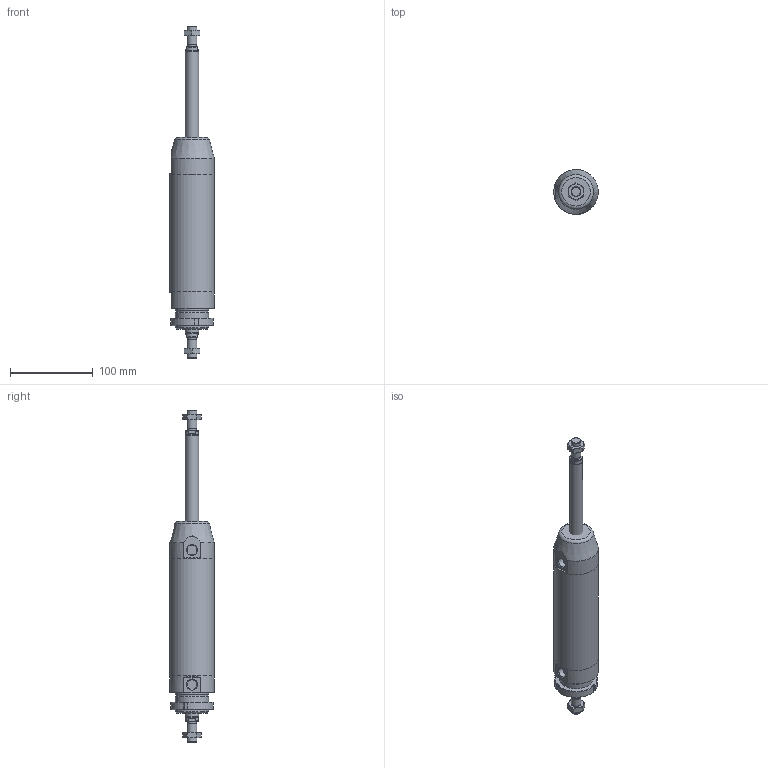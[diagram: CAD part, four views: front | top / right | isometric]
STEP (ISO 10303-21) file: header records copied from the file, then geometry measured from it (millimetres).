
FILE_DESCRIPTION(/* description */ (''),/* implementation_level */ '2;1');
FILE_NAME(/* name */ 'I:\Area Tecnica\Documenti\A-Manieri\_Inventor\12X\12X#T_###_####_#_#\12XCT_050_0100_#_#.stp',/* time_stamp */ '2015-05-13T08:46:09+02:00',/* author */ ('maniean1'),/* organization */ ('Pneumax S.p.A.'),/* preprocessor_version */ 'ST-DEVELOPER v15.2',/* originating_system */ 'Autodesk Inventor 2014',/* authorisation */ '');
FILE_SCHEMA (('AUTOMOTIVE_DESIGN { 1 0 10303 214 3 1 1 }'));
Length unit declared in the file: millimetre
Products named in the file (7): C1250_619-0100; 12X50_604; SP12X50_0100; 12X_50_11; 12X50_613; G12X_050_05; 12XCT_050_0100_#_#
Bounding box: 54 x 54 x 402 mm (x, y, z)
Volume: 356642.1 mm3; surface area: 107127 mm2
Topology: 7 solids, 7 shells, 107 faces, 238 edges, 152 vertices
Faces by surface type: plane 54, cylinder 26, cone 26, torus 1
Full cylindrical faces by diameter (mm): 10.2 x2, 11.4 x2, 12 x4, 14 x2, 15.6 x2, 16 x2, 38.2 x1, 40 x3, 50 x2, 54 x3
Entity records: 2546 total; most frequent: CARTESIAN_POINT 474, DIRECTION 433, ORIENTED_EDGE 338, AXIS2_PLACEMENT_3D 187, EDGE_CURVE 169, EDGE_LOOP 150, VERTEX_POINT 129, ADVANCED_FACE 96
